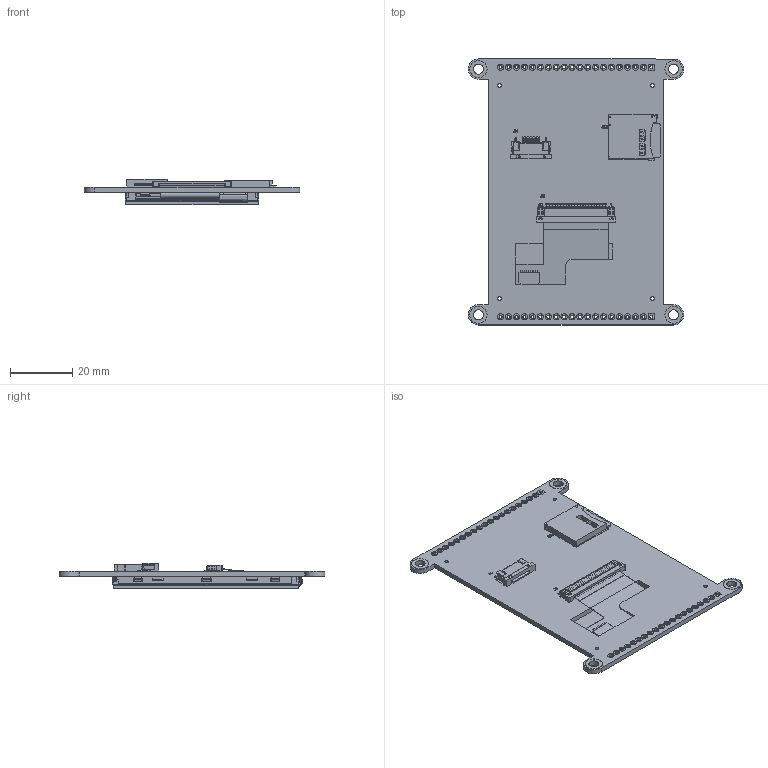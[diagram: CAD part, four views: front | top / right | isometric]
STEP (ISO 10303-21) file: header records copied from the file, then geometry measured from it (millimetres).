
FILE_DESCRIPTION (( 'STEP AP203' ), '1' );
FILE_NAME ('NHD-2.4R-CTXP-BREAKOUT.STEP', '2025-07-31T16:59:59', ( '' ), ( '' ), 'SwSTEP 2.0', 'SolidWorks 2019', '' );
FILE_SCHEMA (( 'CONFIG_CONTROL_DESIGN' ));
Products named in the file (1): NHD-2.4R-CTXP-BREAKOUT
Bounding box: 69.03 x 85.2 x 8.18 mm (x, y, z)
Surface area: 45471.7 mm2 (no closed solid volume)
Topology: 0 solids, 38 shells, 6144 faces, 18636 edges, 12174 vertices
Faces by surface type: plane 3913, cylinder 2081, bspline 146, torus 4
Entity records: 214656 total; most frequent: CARTESIAN_POINT 45628, ORIENTED_EDGE 37224, DIRECTION 33600, EDGE_CURVE 18636, LINE 13218, VECTOR 13218, VERTEX_POINT 12174, AXIS2_PLACEMENT_3D 10191
